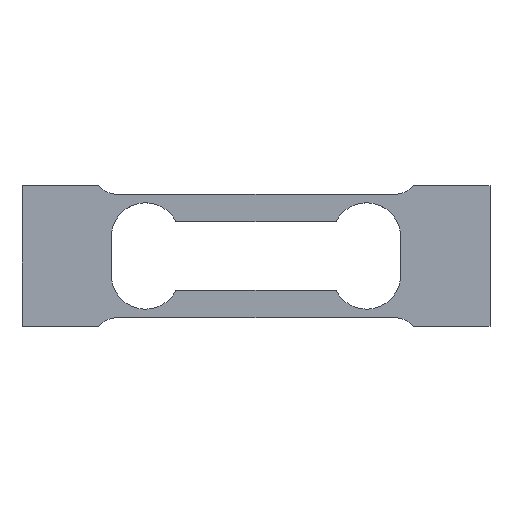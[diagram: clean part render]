
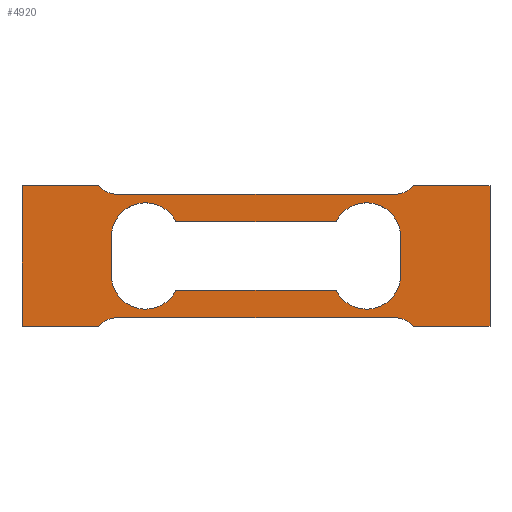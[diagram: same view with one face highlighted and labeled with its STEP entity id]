
A CAD part, top view. The second image highlights one B-rep face of the part: STEP entity #4920.
In plain terms, the highlighted planar face has unit normal (0, 0, 1).
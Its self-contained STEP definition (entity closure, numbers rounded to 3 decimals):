
#19=FACE_BOUND('',#672,.T.);
#49=PLANE('',#5256);
#79=CIRCLE('',#5223,6.);
#82=CIRCLE('',#5227,6.);
#84=CIRCLE('',#5230,6.);
#85=CIRCLE('',#5232,6.);
#88=CIRCLE('',#5238,8.);
#90=CIRCLE('',#5242,8.);
#92=CIRCLE('',#5246,8.);
#94=CIRCLE('',#5250,8.);
#379=FACE_OUTER_BOUND('',#671,.T.);
#671=EDGE_LOOP('',(#4339,#4340,#4341,#4342,#4343,#4344,#4345,#4346,#4347,
#4348,#4349,#4350));
#672=EDGE_LOOP('',(#4351,#4352,#4353,#4354,#4355,#4356,#4357,#4358));
#1347=LINE('',#19832,#1636);
#1351=LINE('',#19841,#1640);
#1355=LINE('',#19853,#1644);
#1359=LINE('',#19865,#1648);
#1364=LINE('',#19878,#1653);
#1366=LINE('',#19884,#1655);
#1367=LINE('',#19887,#1656);
#1372=LINE('',#19896,#1661);
#1373=LINE('',#19899,#1662);
#1379=LINE('',#19910,#1668);
#1380=LINE('',#19911,#1669);
#1381=LINE('',#19912,#1670);
#1636=VECTOR('',#6109,10.);
#1640=VECTOR('',#6115,10.);
#1644=VECTOR('',#6127,10.);
#1648=VECTOR('',#6139,10.);
#1653=VECTOR('',#6152,10.);
#1655=VECTOR('',#6162,10.);
#1656=VECTOR('',#6165,10.);
#1661=VECTOR('',#6172,10.);
#1662=VECTOR('',#6175,10.);
#1668=VECTOR('',#6185,10.);
#1669=VECTOR('',#6186,10.);
#1670=VECTOR('',#6187,10.);
#2098=VERTEX_POINT('',#19796);
#2099=VERTEX_POINT('',#19797);
#2104=VERTEX_POINT('',#19808);
#2105=VERTEX_POINT('',#19810);
#2108=VERTEX_POINT('',#19817);
#2109=VERTEX_POINT('',#19819);
#2110=VERTEX_POINT('',#19823);
#2111=VERTEX_POINT('',#19824);
#2116=VERTEX_POINT('',#19838);
#2117=VERTEX_POINT('',#19840);
#2119=VERTEX_POINT('',#19846);
#2121=VERTEX_POINT('',#19852);
#2123=VERTEX_POINT('',#19858);
#2125=VERTEX_POINT('',#19864);
#2127=VERTEX_POINT('',#19870);
#2129=VERTEX_POINT('',#19876);
#2130=VERTEX_POINT('',#19886);
#2133=VERTEX_POINT('',#19894);
#2134=VERTEX_POINT('',#19898);
#2137=VERTEX_POINT('',#19909);
#2825=EDGE_CURVE('',#2098,#2099,#79,.T.);
#2831=EDGE_CURVE('',#2104,#2105,#82,.T.);
#2835=EDGE_CURVE('',#2108,#2109,#84,.T.);
#2837=EDGE_CURVE('',#2110,#2111,#85,.F.);
#2841=EDGE_CURVE('',#2108,#2099,#1347,.T.);
#2845=EDGE_CURVE('',#2117,#2116,#1351,.T.);
#2848=EDGE_CURVE('',#2119,#2117,#88,.T.);
#2851=EDGE_CURVE('',#2121,#2119,#1355,.T.);
#2854=EDGE_CURVE('',#2123,#2121,#90,.T.);
#2857=EDGE_CURVE('',#2125,#2123,#1359,.T.);
#2861=EDGE_CURVE('',#2116,#2127,#92,.T.);
#2864=EDGE_CURVE('',#2127,#2129,#1364,.T.);
#2866=EDGE_CURVE('',#2129,#2125,#94,.T.);
#2868=EDGE_CURVE('',#2104,#2110,#1366,.T.);
#2869=EDGE_CURVE('',#2130,#2109,#1367,.T.);
#2874=EDGE_CURVE('',#2133,#2111,#1372,.T.);
#2875=EDGE_CURVE('',#2105,#2134,#1373,.T.);
#2881=EDGE_CURVE('',#2098,#2137,#1379,.T.);
#2882=EDGE_CURVE('',#2134,#2137,#1380,.T.);
#2883=EDGE_CURVE('',#2130,#2133,#1381,.T.);
#4339=ORIENTED_EDGE('',*,*,#2835,.F.);
#4340=ORIENTED_EDGE('',*,*,#2841,.T.);
#4341=ORIENTED_EDGE('',*,*,#2825,.F.);
#4342=ORIENTED_EDGE('',*,*,#2881,.T.);
#4343=ORIENTED_EDGE('',*,*,#2882,.F.);
#4344=ORIENTED_EDGE('',*,*,#2875,.F.);
#4345=ORIENTED_EDGE('',*,*,#2831,.F.);
#4346=ORIENTED_EDGE('',*,*,#2868,.T.);
#4347=ORIENTED_EDGE('',*,*,#2837,.T.);
#4348=ORIENTED_EDGE('',*,*,#2874,.F.);
#4349=ORIENTED_EDGE('',*,*,#2883,.F.);
#4350=ORIENTED_EDGE('',*,*,#2869,.T.);
#4351=ORIENTED_EDGE('',*,*,#2857,.T.);
#4352=ORIENTED_EDGE('',*,*,#2854,.T.);
#4353=ORIENTED_EDGE('',*,*,#2851,.T.);
#4354=ORIENTED_EDGE('',*,*,#2848,.T.);
#4355=ORIENTED_EDGE('',*,*,#2845,.T.);
#4356=ORIENTED_EDGE('',*,*,#2861,.T.);
#4357=ORIENTED_EDGE('',*,*,#2864,.T.);
#4358=ORIENTED_EDGE('',*,*,#2866,.T.);
#4920=ADVANCED_FACE('',(#379,#19),#49,.T.);
#5223=AXIS2_PLACEMENT_3D('',#19798,#6077,#6078);
#5227=AXIS2_PLACEMENT_3D('',#19811,#6088,#6089);
#5230=AXIS2_PLACEMENT_3D('',#19820,#6096,#6097);
#5232=AXIS2_PLACEMENT_3D('',#19825,#6101,#6102);
#5238=AXIS2_PLACEMENT_3D('',#19847,#6121,#6122);
#5242=AXIS2_PLACEMENT_3D('',#19859,#6133,#6134);
#5246=AXIS2_PLACEMENT_3D('',#19872,#6146,#6147);
#5250=AXIS2_PLACEMENT_3D('',#19881,#6157,#6158);
#5256=AXIS2_PLACEMENT_3D('',#19908,#6183,#6184);
#6077=DIRECTION('center_axis',(0.,0.,1.));
#6078=DIRECTION('ref_axis',(0.745,0.667,0.));
#6088=DIRECTION('center_axis',(0.,0.,1.));
#6089=DIRECTION('ref_axis',(0.745,-0.667,0.));
#6096=DIRECTION('center_axis',(0.,0.,1.));
#6097=DIRECTION('ref_axis',(-0.745,0.667,0.));
#6101=DIRECTION('center_axis',(0.,0.,1.));
#6102=DIRECTION('ref_axis',(-0.745,-0.667,0.));
#6109=DIRECTION('',(1.,0.,0.));
#6115=DIRECTION('',(0.,1.,0.));
#6121=DIRECTION('center_axis',(0.,0.,-1.));
#6122=DIRECTION('ref_axis',(1.,0.,0.));
#6127=DIRECTION('',(-1.,0.,0.));
#6133=DIRECTION('center_axis',(0.,0.,-1.));
#6134=DIRECTION('ref_axis',(1.,0.,0.));
#6139=DIRECTION('',(0.,-1.,0.));
#6146=DIRECTION('center_axis',(0.,0.,-1.));
#6147=DIRECTION('ref_axis',(1.,0.,0.));
#6152=DIRECTION('',(1.,0.,0.));
#6157=DIRECTION('center_axis',(0.,0.,-1.));
#6158=DIRECTION('ref_axis',(1.,0.,0.));
#6162=DIRECTION('',(-1.,0.,0.));
#6165=DIRECTION('',(1.,0.,0.));
#6172=DIRECTION('',(1.,0.,0.));
#6175=DIRECTION('',(1.,0.,0.));
#6183=DIRECTION('center_axis',(0.,0.,1.));
#6184=DIRECTION('ref_axis',(0.,-1.,0.));
#6185=DIRECTION('',(1.,0.,0.));
#6186=DIRECTION('',(0.,-1.,0.));
#6187=DIRECTION('',(0.,1.,0.));
#19796=CARTESIAN_POINT('',(37.,-16.5,2.5));
#19797=CARTESIAN_POINT('',(32.528,-14.5,2.5));
#19798=CARTESIAN_POINT('Origin',(32.528,-20.5,2.5));
#19808=CARTESIAN_POINT('',(32.528,14.5,2.5));
#19810=CARTESIAN_POINT('',(37.,16.5,2.5));
#19811=CARTESIAN_POINT('Origin',(32.528,20.5,2.5));
#19817=CARTESIAN_POINT('',(-32.528,-14.5,2.5));
#19819=CARTESIAN_POINT('',(-37.,-16.5,2.5));
#19820=CARTESIAN_POINT('Origin',(-32.528,-20.5,2.5));
#19823=CARTESIAN_POINT('',(-32.528,14.5,2.5));
#19824=CARTESIAN_POINT('',(-37.,16.5,2.5));
#19825=CARTESIAN_POINT('Origin',(-32.528,20.5,2.5));
#19832=CARTESIAN_POINT('',(18.5,-14.5,2.5));
#19838=CARTESIAN_POINT('',(-34.,4.5,2.5));
#19840=CARTESIAN_POINT('',(-34.,-4.5,2.5));
#19841=CARTESIAN_POINT('',(-34.,10.5,2.5));
#19846=CARTESIAN_POINT('',(-18.806,-8.,2.5));
#19847=CARTESIAN_POINT('Origin',(-26.,-4.5,2.5));
#19852=CARTESIAN_POINT('',(18.806,-8.,2.5));
#19853=CARTESIAN_POINT('',(-9.403,-8.,2.5));
#19858=CARTESIAN_POINT('',(34.,-4.5,2.5));
#19859=CARTESIAN_POINT('Origin',(26.,-4.5,2.5));
#19864=CARTESIAN_POINT('',(34.,4.5,2.5));
#19865=CARTESIAN_POINT('',(34.,6.,2.5));
#19870=CARTESIAN_POINT('',(-18.806,8.,2.5));
#19872=CARTESIAN_POINT('Origin',(-26.,4.5,2.5));
#19876=CARTESIAN_POINT('',(18.806,8.,2.5));
#19878=CARTESIAN_POINT('',(9.403,8.,2.5));
#19881=CARTESIAN_POINT('Origin',(26.,4.5,2.5));
#19884=CARTESIAN_POINT('',(-18.5,14.5,2.5));
#19886=CARTESIAN_POINT('',(-55.,-16.5,2.5));
#19887=CARTESIAN_POINT('',(0.,-16.5,2.5));
#19894=CARTESIAN_POINT('',(-55.,16.5,2.5));
#19896=CARTESIAN_POINT('',(0.,16.5,2.5));
#19898=CARTESIAN_POINT('',(55.,16.5,2.5));
#19899=CARTESIAN_POINT('',(0.,16.5,2.5));
#19908=CARTESIAN_POINT('Origin',(0.,16.5,2.5));
#19909=CARTESIAN_POINT('',(55.,-16.5,2.5));
#19910=CARTESIAN_POINT('',(0.,-16.5,2.5));
#19911=CARTESIAN_POINT('',(55.,-16.5,2.5));
#19912=CARTESIAN_POINT('',(-55.,-16.5,2.5));
